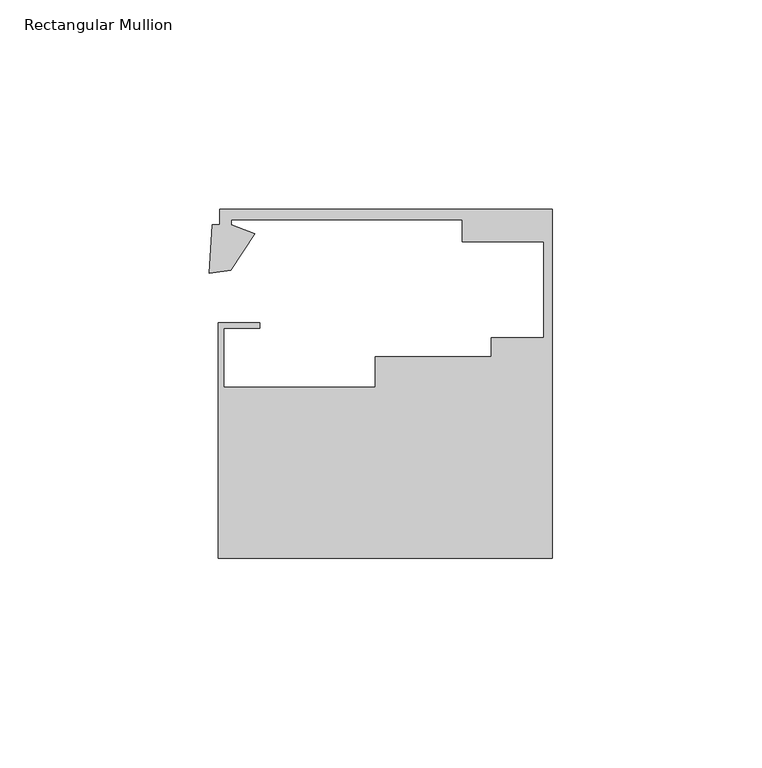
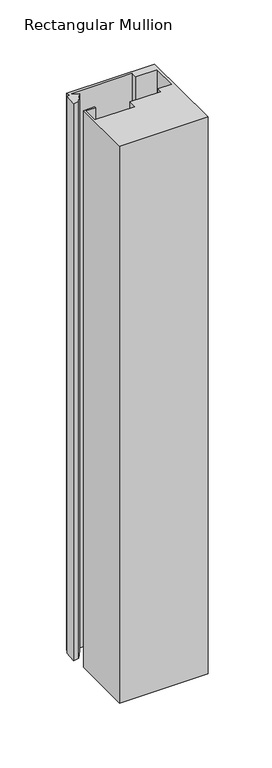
"""IFC4 building model written with IfcOpenShell, lengths in millimetres: member geometry, Rectangular Mullion : Danpal_NM_End-Mullion_B1."""

from ifc_helpers import new_model, si_unit, frame, origin, place, context, project, spatial, polyline, outline, extrude, source, transform, mapped, element, save


def rectangular_mullion_d35b6d32(model_context):
    return source(origin(), model_context, "Body", "SweptSolid", [
        extrude(outline(polyline([(0.0, -68.4940825), (-79.7784606, -68.4940825), (-79.7784606, -12.280939), (-69.8282946, -12.280939), (-69.8282946, -13.5916994), (-78.4582695, -13.5916994), (-78.4582695, -27.6399085), (-42.2578709, -27.6399085), (-42.2684147, -20.3894746), (-14.6000003, -20.3492381), (-14.6000003, -15.7940824), (-2.0000001, -15.7940824), (-2.0000001, 7.1181946), (-21.5478166, 7.1181946), (-21.5478166, 12.3181946), (-76.6478166, 12.3181946), (-76.6478166, 11.1168176), (-71.0577359, 9.0180613), (-76.7540801, 0.319325), (-81.8779002, -0.484903), (-81.1597999, 11.1413992), (-79.3474874, 11.1413992), (-79.3474874, 14.8003189), (0.0, 14.8051514), (0.0, -68.4940825)])), frame((0.0, 0.0, -531.2), z_axis=(0.0, 0.0, 1.0), x_axis=(1.0, 0.0, 0.0)), (0.0, 0.0, 1.0), 531.2),
    ])


if __name__ == "__main__":
    model = new_model("IFC4")
    model_context = context("Model", 3, world=origin())
    ifc_project = project(units=[si_unit("LENGTHUNIT", "METRE", prefix="MILLI")], contexts=[model_context])
    site = spatial("IfcSite", under=ifc_project)
    building = spatial("IfcBuilding", under=site)
    placement = place(None, origin())
    rectangular_mullion_shape = rectangular_mullion_d35b6d32(model_context)
    element("IfcMember", 1, ObjectType="Rectangular Mullion : Danpal_NM_End-Mullion_B1", at=placement, inside=building, context=model_context, shape_type="MappedRepresentation", body=[
        mapped(rectangular_mullion_shape, transform((0.0, 0.0, 0.0), x_axis=(1.0, 0.0, 0.0), y_axis=(0.0, 1.0, 0.0), z_axis=(0.0, 0.0, 1.0))),
    ])
    save(model, "model.ifc")
